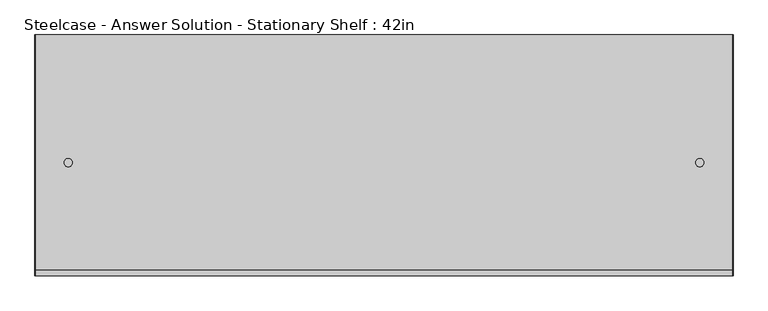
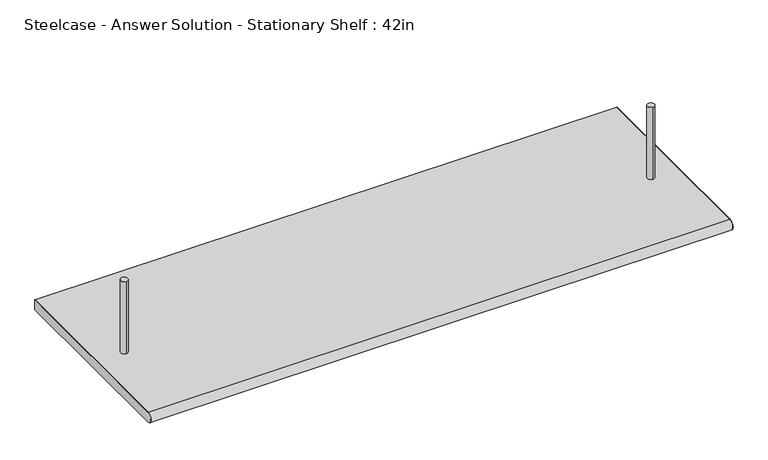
"""IFC4 building model written with IfcOpenShell, lengths in millimetres: furniture geometry, Steelcase - Answer Solution - Stationary Shelf : 42in."""

from ifc_helpers import new_model, si_unit, point, frame, frame_2d, origin, place, context, project, spatial, polyline, circle_curve, trimmed, segment, composite_curve, outline, extrude, source, transform, mapped, element, save


def steelcase_answer_solution_stationary_shelf_42in_f67d1f63(model_context):
    return source(origin(), model_context, "Body", "SweptSolid", [
        extrude(outline(composite_curve([segment(trimmed(circle_curve(frame_2d((1016.0, -195.2625)), 6.35), [point((1016.0, -201.6125))], [point((1016.0, -188.9125))], False, "CARTESIAN"), True, "CONTINUOUS"), segment(trimmed(circle_curve(frame_2d((1016.0, -195.2625)), 6.35), [point((1016.0, -188.9125))], [point((1016.0, -201.6125))], False, "CARTESIAN"), True, "CONTINUOUS")], self_intersect=False)), frame((0.0, 0.0, 1136.6500242), z_axis=(0.0, 0.0, 1.0), x_axis=(1.0, 0.0, 0.0)), (0.0, 0.0, 1.0), 139.6999758),
        extrude(outline(composite_curve([segment(trimmed(circle_curve(frame_2d((50.8, -195.2625)), 6.35), [point((50.8, -201.6125))], [point((50.8, -188.9125))], False, "CARTESIAN"), True, "CONTINUOUS"), segment(trimmed(circle_curve(frame_2d((50.8, -195.2625)), 6.35), [point((50.8, -188.9125))], [point((50.8, -201.6125))], False, "CARTESIAN"), True, "CONTINUOUS")], self_intersect=False)), frame((0.0, 0.0, 1136.6500242), z_axis=(0.0, 0.0, 1.0), x_axis=(1.0, 0.0, 0.0)), (0.0, 0.0, 1.0), 139.6999758),
        extrude(outline(composite_curve([segment(polyline([(-358.7557809, 1136.6500242), (0.0, 1136.6500242), (0.0, 1117.6000242), (-358.7557809, 1117.6000242)]), True, "CONTINUOUS"), segment(trimmed(circle_curve(frame_2d((-358.7557809, 1127.1250242)), 9.525), [point((-358.7557809, 1117.6000242))], [point((-358.7557809, 1136.6500242))], False, "CARTESIAN"), True, "CONTINUOUS")], self_intersect=False)), frame((1066.599975, 0.0, 0.0), z_axis=(1.0, 0.0, 0.0), x_axis=(0.0, 1.0, 0.0)), (0.0, 0.0, 1.0), 0.200025),
        extrude(outline(composite_curve([segment(polyline([(-358.7557809, 1136.6500242), (0.0, 1136.6500242), (0.0, 1117.6000242), (-358.7557809, 1117.6000242)]), True, "CONTINUOUS"), segment(trimmed(circle_curve(frame_2d((-358.7557809, 1127.1250242)), 9.525), [point((-358.7557809, 1117.6000242))], [point((-358.7557809, 1136.6500242))], False, "CARTESIAN"), True, "CONTINUOUS")], self_intersect=False)), frame((0.0, 0.0, 0.0), z_axis=(1.0, 0.0, 0.0), x_axis=(0.0, 1.0, 0.0)), (0.0, 0.0, 1.0), 0.200025),
        extrude(outline(composite_curve([segment(polyline([(0.0, 1136.6500242), (0.0, 1117.6000242), (-358.7557809, 1117.6000242)]), True, "CONTINUOUS"), segment(trimmed(circle_curve(frame_2d((-358.7557809, 1127.1250242)), 9.525), [point((-358.7557809, 1117.6000242))], [point((-358.7557809, 1136.6500242))], False, "CARTESIAN"), True, "CONTINUOUS"), segment(polyline([(-358.7557809, 1136.6500242), (0.0, 1136.6500242)]), True, "CONTINUOUS")], self_intersect=False)), frame((0.200025, 0.0, 0.0), z_axis=(1.0, 0.0, 0.0), x_axis=(0.0, 1.0, 0.0)), (0.0, 0.0, 1.0), 1066.39995),
    ])


if __name__ == "__main__":
    model = new_model("IFC4")
    model_context = context("Model", 3, world=origin())
    ifc_project = project(units=[si_unit("LENGTHUNIT", "METRE", prefix="MILLI")], contexts=[model_context])
    site = spatial("IfcSite", under=ifc_project)
    building = spatial("IfcBuilding", under=site)
    placement = place(None, origin())
    steelcase_answer_solution_stationary_shelf_42in_shape = steelcase_answer_solution_stationary_shelf_42in_f67d1f63(model_context)
    element("IfcFurniture", 1, ObjectType="Steelcase - Answer Solution - Stationary Shelf : 42in", at=placement, inside=building, context=model_context, shape_type="MappedRepresentation", body=[
        mapped(steelcase_answer_solution_stationary_shelf_42in_shape, transform((0.0, 0.0, 0.0), x_axis=(1.0, 0.0, 0.0), y_axis=(0.0, 1.0, 0.0), z_axis=(0.0, 0.0, 1.0))),
    ])
    save(model, "model.ifc")
